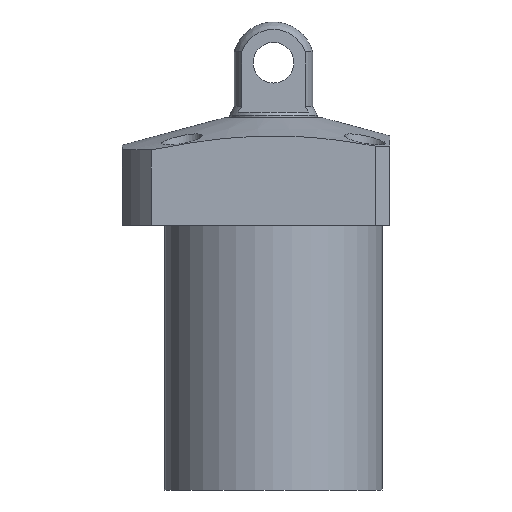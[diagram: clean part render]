
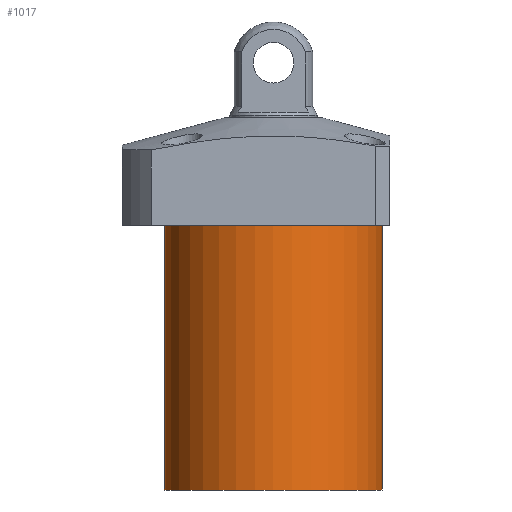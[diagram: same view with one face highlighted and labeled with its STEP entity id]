
A CAD part, front view. The second image highlights one B-rep face of the part: STEP entity #1017.
In plain terms, the highlighted cylindrical face has radius 37.5 mm (diameter 75 mm), a partial arc.
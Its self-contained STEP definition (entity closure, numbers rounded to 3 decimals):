
#70 = VERTEX_POINT ( 'NONE', #1265 ) ;
#95 = DIRECTION ( 'NONE',  ( 0., 0., 1. ) ) ;
#214 = LINE ( 'NONE', #1946, #654 ) ;
#226 = CARTESIAN_POINT ( 'NONE',  ( 37.5, 0., -18.5 ) ) ;
#366 = CIRCLE ( 'NONE', #1367, 37.5 ) ;
#389 = CARTESIAN_POINT ( 'NONE',  ( -37.5, 0., -109.5 ) ) ;
#432 = CYLINDRICAL_SURFACE ( 'NONE', #2031, 37.5 ) ;
#468 = VERTEX_POINT ( 'NONE', #226 ) ;
#505 = VERTEX_POINT ( 'NONE', #599 ) ;
#599 = CARTESIAN_POINT ( 'NONE',  ( 37.5, 0., -109.5 ) ) ;
#633 = FACE_OUTER_BOUND ( 'NONE', #1586, .T. ) ;
#654 = VECTOR ( 'NONE', #95, 1000. ) ;
#657 = VECTOR ( 'NONE', #1056, 1000. ) ;
#674 = DIRECTION ( 'NONE',  ( 0., 0., -1. ) ) ;
#679 = EDGE_CURVE ( 'NONE', #505, #896, #2156, .T. ) ;
#693 = ORIENTED_EDGE ( 'NONE', *, *, #1680, .F. ) ;
#744 = LINE ( 'NONE', #1593, #657 ) ;
#896 = VERTEX_POINT ( 'NONE', #389 ) ;
#1017 = ADVANCED_FACE ( 'NONE', ( #633 ), #432, .T. ) ;
#1056 = DIRECTION ( 'NONE',  ( 0., 0., 1. ) ) ;
#1087 = CARTESIAN_POINT ( 'NONE',  ( 0., 0., -109.5 ) ) ;
#1265 = CARTESIAN_POINT ( 'NONE',  ( -37.5, 0., -18.5 ) ) ;
#1321 = DIRECTION ( 'NONE',  ( 1., 0., 0. ) ) ;
#1367 = AXIS2_PLACEMENT_3D ( 'NONE', #1632, #2011, #1321 ) ;
#1426 = AXIS2_PLACEMENT_3D ( 'NONE', #1087, #674, #2354 ) ;
#1520 = ORIENTED_EDGE ( 'NONE', *, *, #2171, .T. ) ;
#1554 = ORIENTED_EDGE ( 'NONE', *, *, #1978, .T. ) ;
#1586 = EDGE_LOOP ( 'NONE', ( #693, #1600, #1554, #1520 ) ) ;
#1593 = CARTESIAN_POINT ( 'NONE',  ( -37.5, 0., -109.5 ) ) ;
#1600 = ORIENTED_EDGE ( 'NONE', *, *, #679, .F. ) ;
#1632 = CARTESIAN_POINT ( 'NONE',  ( 0., 0., -18.5 ) ) ;
#1680 = EDGE_CURVE ( 'NONE', #896, #70, #744, .T. ) ;
#1715 = DIRECTION ( 'NONE',  ( 0., 0., 1. ) ) ;
#1930 = CARTESIAN_POINT ( 'NONE',  ( 0., 0., -109.5 ) ) ;
#1946 = CARTESIAN_POINT ( 'NONE',  ( 37.5, 0., -109.5 ) ) ;
#1978 = EDGE_CURVE ( 'NONE', #505, #468, #214, .T. ) ;
#2011 = DIRECTION ( 'NONE',  ( 0., 0., -1. ) ) ;
#2031 = AXIS2_PLACEMENT_3D ( 'NONE', #1930, #1715, #2122 ) ;
#2122 = DIRECTION ( 'NONE',  ( 1., 0., 0. ) ) ;
#2156 = CIRCLE ( 'NONE', #1426, 37.5 ) ;
#2171 = EDGE_CURVE ( 'NONE', #468, #70, #366, .T. ) ;
#2354 = DIRECTION ( 'NONE',  ( -1., 0., 0. ) ) ;
